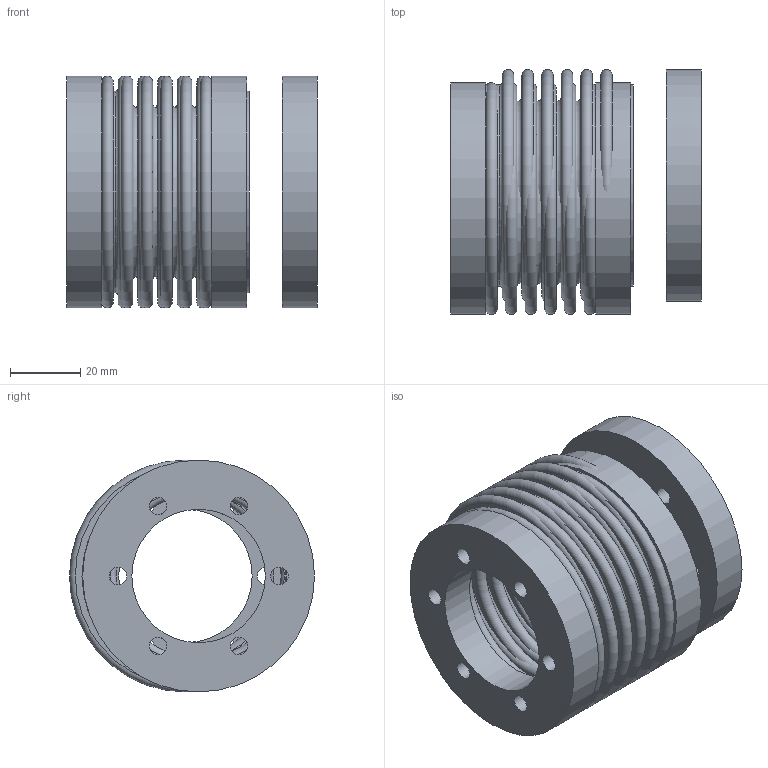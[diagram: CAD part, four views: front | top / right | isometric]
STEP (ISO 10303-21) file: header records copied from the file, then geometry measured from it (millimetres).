
FILE_DESCRIPTION( ( 'Unknown' ), '1' );
FILE_NAME( 'C:/Dokumente und Einstellungen/Sven/Desktop/homepage/cad - homepage/KB7/KB7-60-51.stp', 'Unknown', ( 'Unknown' ), ( 'Unknown' ), 'XStep 1.0', 'Unknown', ' ' );
FILE_SCHEMA( ( 'automotive_design' ) );
Length unit declared in the file: millimetre
Products named in the file (3): Assem1; BL60_Standard; FN60_Standard_0
Bounding box: 71.44 x 69.75 x 66 mm (x, y, z)
Volume: 88218.3 mm3; surface area: 117917.5 mm2
Topology: 5 solids, 5 shells, 138 faces, 238 edges, 158 vertices
Faces by surface type: plane 58, torus 48, cylinder 32
Full cylindrical faces by diameter (mm): 5 x18, 38 x3, 56.3 x4, 57.3 x4, 66 x3
Entity records: 1866 total; most frequent: DIRECTION 276, CARTESIAN_POINT 208, EDGE_LOOP 140, ORIENTED_EDGE 140, AXIS2_PLACEMENT_3D 138, FACE_OUTER_BOUND 100, EDGE_CURVE 70, VERTEX_POINT 70
